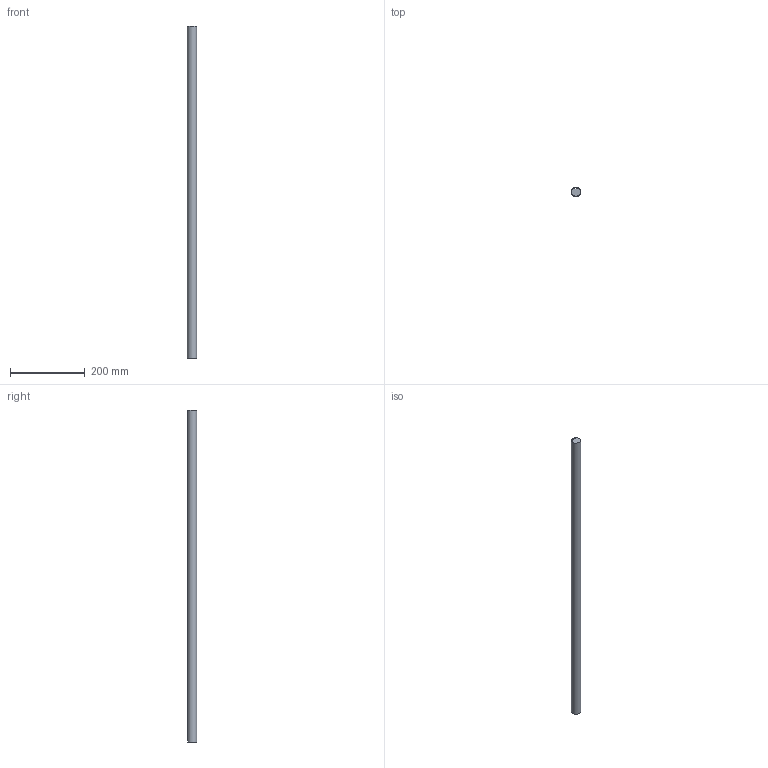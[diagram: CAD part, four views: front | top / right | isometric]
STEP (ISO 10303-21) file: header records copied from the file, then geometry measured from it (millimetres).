
FILE_DESCRIPTION(/* description */ (''),/* implementation_level */ '2;1');
FILE_NAME(/* name */ 'S:\UFFICIO TECNICO 2019\PRODOTTI ROTALIANA\SOUVLAKI\CONFIGURATORE\FILES X CONFIGURATORE\ipt INVENTOR\ASVBL001_binario LED 890mm.stp',/* time_stamp */ '2024-03-13T10:12:31+01:00',/* author */ ('mtesta'),/* organization */ (''),/* preprocessor_version */ 'ST-DEVELOPER v18.1',/* originating_system */ 'Autodesk Inventor 2021',/* authorisation */ '');
FILE_SCHEMA (('AUTOMOTIVE_DESIGN { 1 0 10303 214 3 1 1 }'));
Length unit declared in the file: millimetre
Products named in the file (1): A05544
Bounding box: 24.97 x 25.05 x 890 mm (x, y, z)
Volume: 406473.3 mm3; surface area: 99506.6 mm2
Topology: 2 solids, 2 shells, 26 faces, 66 edges, 44 vertices
Faces by surface type: plane 13, cylinder 13
Entity records: 865 total; most frequent: DIRECTION 146, CARTESIAN_POINT 137, ORIENTED_EDGE 132, EDGE_CURVE 66, AXIS2_PLACEMENT_3D 53, VERTEX_POINT 44, LINE 40, VECTOR 40
